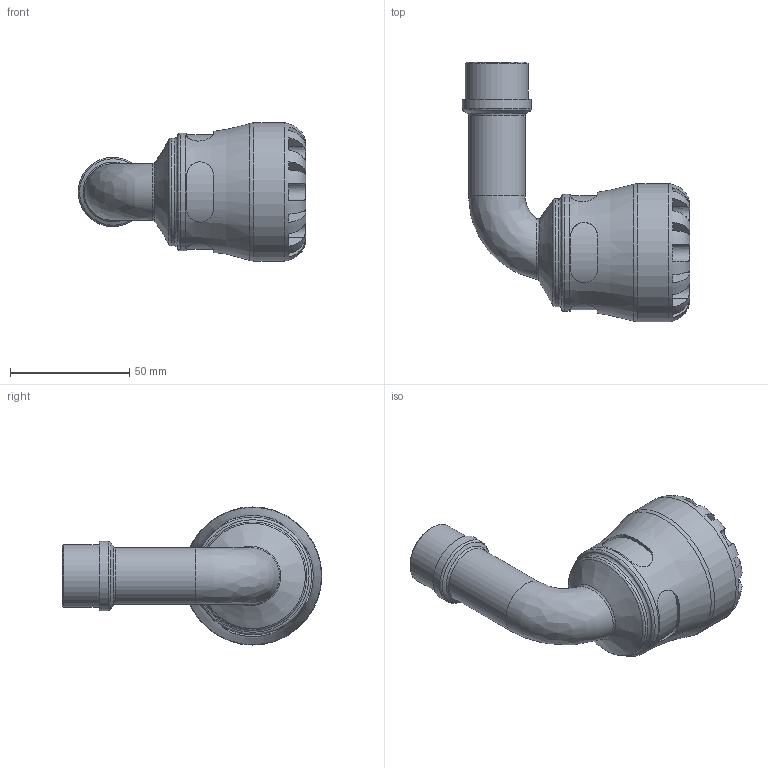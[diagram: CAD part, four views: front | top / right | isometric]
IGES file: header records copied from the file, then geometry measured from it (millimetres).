
Global section: file name: 107700032007_197700032007.ipt; native system: Autodesk Inventor 2015; preprocessor: unknown; author: KIM; date: 20170122.115452; units: millimetre
Bounding box: 95.54 x 109 x 58 mm (x, y, z)
Volume: 102430.3 mm3; surface area: 32851.5 mm2
Topology: 1 solids, 1 shells, 112 faces, 288 edges, 183 vertices
Faces by surface type: plane 60, revolution 28, cylinder 18, bspline 4, cone 2
Full cylindrical faces by diameter (mm): 23.797 x1, 26.441 x1, 29.085 x1, 45.24 x1, 49.3 x1, 58 x1
